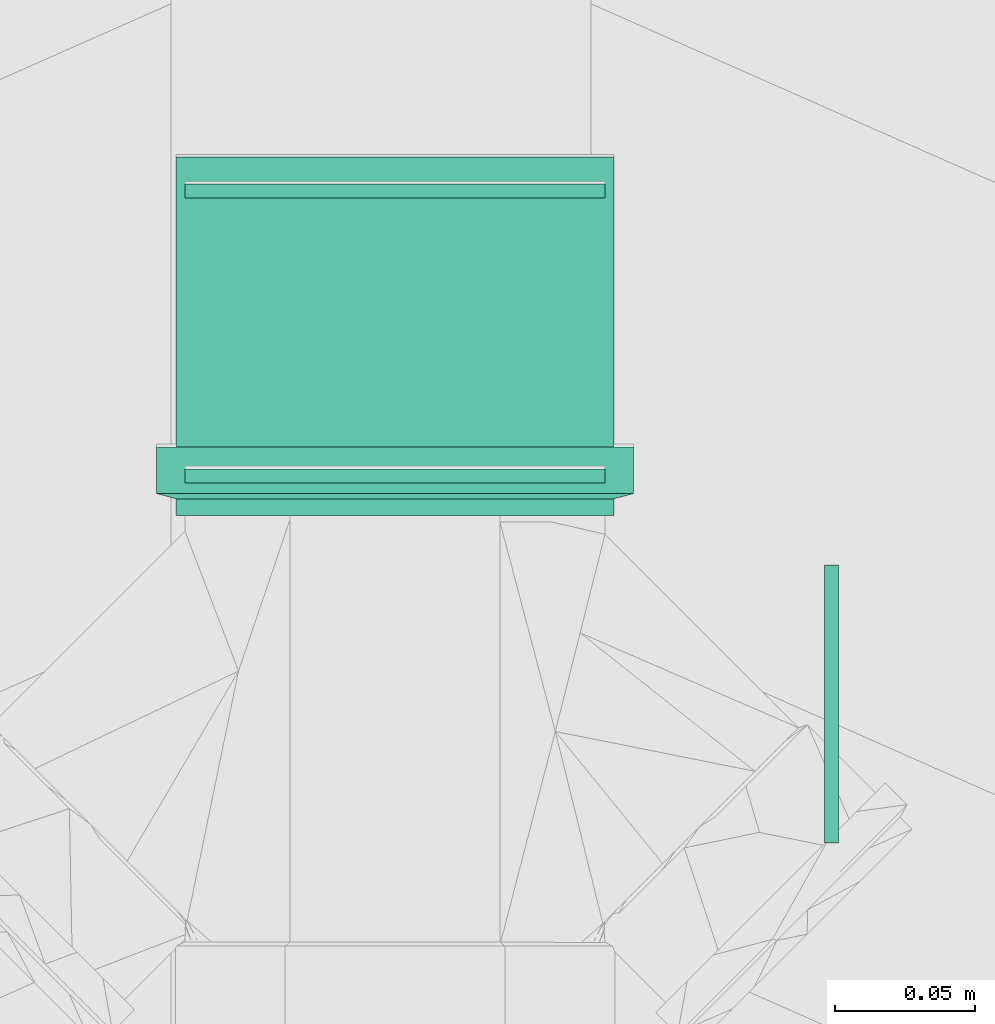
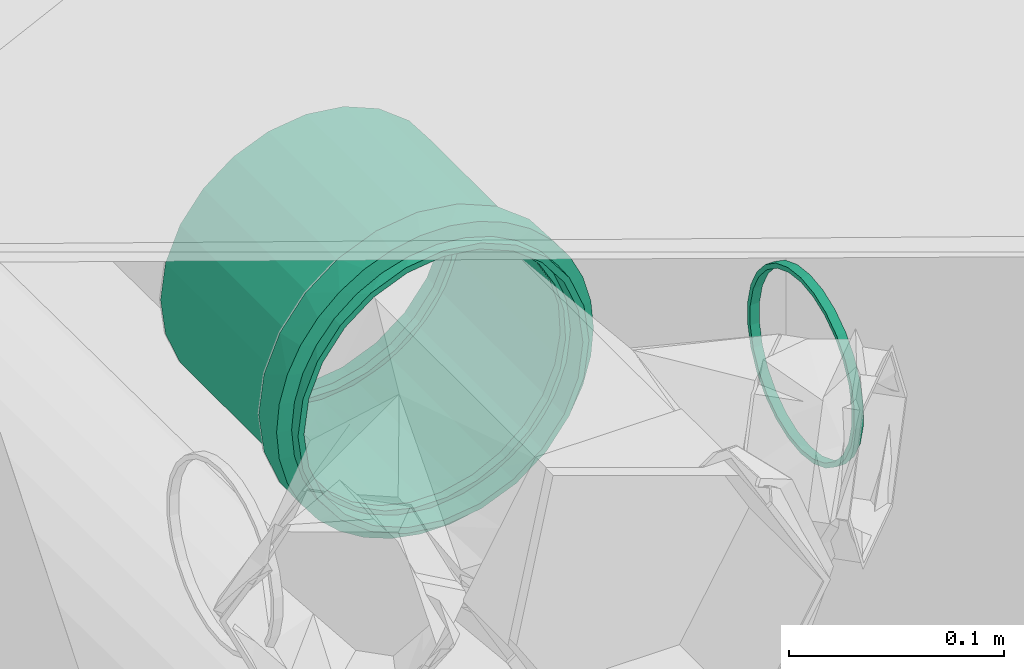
# One storey, part 135 of 166: 4 flow fittings.
"""IFC2X3 building model written with IfcOpenShell, lengths in metres."""

from ifc_helpers import new_model, entity, si_unit, converted_unit, direction, frame, frame_2d, origin, place, context, subcontext, project, spatial, hollow_circle, extrude, faceted_brep, source, transform, mapped, material, type_object, type_shapes, element, save


model = new_model("IFC2X3")

# Units and contexts
model_context = context("Model", 3, precision=1e-05, world=origin(), true_north=direction((6.123233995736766e-17, 1.0)))
body_context = subcontext(model_context, "Body", "Model", "MODEL_VIEW")
ifc_project = project(units=[si_unit("LENGTHUNIT", "METRE"), converted_unit("PLANEANGLEUNIT", "DEGREE", entity("IfcPlaneAngleMeasure", 0.017453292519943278), si_unit("PLANEANGLEUNIT", "RADIAN"), dimensions=[0, 0, 0, 0, 0, 0, 0]), si_unit("AREAUNIT", "SQUARE_METRE")], contexts=[model_context])

# Site, building, storey
site_placement = place(None, origin())
site = spatial("IfcSite", under=ifc_project, at=site_placement, Name="Default", CompositionType="ELEMENT")
building_placement = place(site_placement, origin())
building = spatial("IfcBuilding", under=site, at=building_placement, Name="CASA DE ACOLHIDA PARA IDOSOS", CompositionType="ELEMENT")
storey_placement = place(building_placement, frame((0.0, 0.0, -1.7499999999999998)))
storey = spatial("IfcBuildingStorey", under=building, at=storey_placement, Name="IMPLANTAÇÃO DRENAGEM", CompositionType="ELEMENT", Elevation=-1.7499999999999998)

# Flow fittings
ifc_material_1 = material(Name="PVC Bege Pérola")
pipe_fitting_type_1 = type_object("IfcPipeFittingType", Name="PLUV_Serie Reforcada_Luva Simples:Standard", PredefinedType="NOTDEFINED", material=ifc_material_1)
shared_shape_1 = source(origin(), body_context, "Body", "Brep", [
    faceted_brep([(0.02451000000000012, 0.04262500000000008, -0.07382866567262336), (0.02451000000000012, 0.06028085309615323, -0.06028085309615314), (0.02451000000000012, 0.039124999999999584, -0.06776648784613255), (0.02451000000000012, 0.020252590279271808, -0.0755836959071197), (0.02451000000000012, 0.022064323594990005, -0.08234517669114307), (0.02451000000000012, 0.05533110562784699, -0.055331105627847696), (0.02451000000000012, 0.07382866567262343, -0.04262499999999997), (0.02451000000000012, 0.06776648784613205, -0.03912500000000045), (0.02451000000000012, 0.07558369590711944, -0.02025259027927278), (0.02451000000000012, 0.08234517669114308, -0.022064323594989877), (0.02451000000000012, 0.07825, 0.0), (0.02451000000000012, 0.08525, 0.0), (0.02451000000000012, 0.07558369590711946, 0.020252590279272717), (0.02451000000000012, 0.0823451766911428, 0.022064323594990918), (0.02451000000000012, 0.06776648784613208, 0.039125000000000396), (0.02451000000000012, 0.07382866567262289, 0.04262500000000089), (0.02451000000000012, 0.05533110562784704, 0.055331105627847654), (0.02451000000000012, 0.06028085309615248, 0.0602808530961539), (0.02451000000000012, 0.03912499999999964, 0.06776648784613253), (0.02451000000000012, 0.04262499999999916, 0.07382866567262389), (0.02451000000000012, 0.020252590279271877, 0.07558369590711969), (0.02451000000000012, 0.02206432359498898, 0.08234517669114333), (0.02451000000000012, 0.0, 0.07825), (0.02451000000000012, 0.0, 0.08525), (0.02451000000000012, -0.020252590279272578, 0.0755836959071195), (0.02451000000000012, -0.022064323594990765, 0.08234517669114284), (0.02451000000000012, -0.03912500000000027, 0.06776648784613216), (0.02451000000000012, -0.042625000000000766, 0.07382866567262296), (0.02451000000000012, -0.05533110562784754, 0.055331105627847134), (0.02451000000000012, -0.0602808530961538, 0.06028085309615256), (0.02451000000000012, -0.06776648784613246, 0.03912499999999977), (0.02451000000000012, -0.07382866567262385, 0.042624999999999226), (0.02451000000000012, -0.08234517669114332, 0.02206432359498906), (0.02451000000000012, -0.07558369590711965, 0.020252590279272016), (0.02451000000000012, -0.08525, 0.0), (0.02451000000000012, -0.07825, 0.0), (0.02451000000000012, -0.08234517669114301, -0.022064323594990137), (0.02451000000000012, -0.07558369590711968, -0.020252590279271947), (0.02451000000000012, -0.07382866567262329, -0.04262500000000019), (0.02451000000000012, -0.0677664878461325, -0.03912499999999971), (0.02451000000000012, -0.060280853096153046, -0.060280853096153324), (0.02451000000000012, -0.05533110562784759, -0.055331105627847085), (0.02451000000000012, -0.042624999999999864, -0.0738286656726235), (0.02451000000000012, -0.039125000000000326, -0.06776648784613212), (0.02451000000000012, -0.02206432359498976, -0.08234517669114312), (0.02451000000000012, -0.02025259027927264, -0.07558369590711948), (0.02451000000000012, 0.0, -0.08525), (0.02451000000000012, 0.0, -0.07825), (0.007830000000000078, -0.08379835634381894, 0.01566518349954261), (0.007830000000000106, -0.07949286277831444, 0.03079687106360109), (0.007830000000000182, -0.05137242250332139, 0.06803261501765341), (0.007830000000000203, -0.03799626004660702, 0.07631413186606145), (0.007830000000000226, -0.00786152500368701, 0.08488674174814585), (0.00783000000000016, -0.06299903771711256, 0.057434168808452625), (0.007830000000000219, -0.023326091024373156, 0.08199668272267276), (0.007830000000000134, -0.07248014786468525, 0.044879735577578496), (0.00783000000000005, -0.08525, 0.0), (0.00783000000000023, 0.007870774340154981, 0.08488588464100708), (0.007830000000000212, 0.03800457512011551, 0.07630999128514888), (0.007830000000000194, 0.05137983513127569, 0.06802701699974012), (0.007830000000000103, 0.07949621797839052, 0.030788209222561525), (0.007830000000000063, 0.08380006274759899, 0.015656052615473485), (0.007830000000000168, 0.06300529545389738, 0.05742730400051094), (0.00783000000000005, 0.08525, 0.0), (0.007830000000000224, 0.023335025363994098, 0.08199414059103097), (0.007830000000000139, 0.07248503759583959, 0.04487183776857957), (0.007830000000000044, 0.08380006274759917, -0.015656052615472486), (0.007830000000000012, 0.07949621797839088, -0.03078820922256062), (0.00782999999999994, 0.05137983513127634, -0.06802701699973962), (0.007829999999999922, 0.038004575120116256, -0.07630999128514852), (0.007829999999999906, 0.007870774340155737, -0.084885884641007), (0.00782999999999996, 0.063005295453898, -0.05742730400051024), (0.007829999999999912, 0.023335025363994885, -0.08199414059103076), (0.007829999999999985, 0.07248503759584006, -0.04487183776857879), (0.007829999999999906, -0.007861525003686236, -0.0848867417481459), (0.007829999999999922, -0.037996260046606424, -0.07631413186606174), (0.007829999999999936, -0.05137242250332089, -0.06803261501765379), (0.00783, -0.07949286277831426, -0.030796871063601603), (0.007830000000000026, -0.08379835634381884, -0.015665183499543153), (0.007829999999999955, -0.06299903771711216, -0.057434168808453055), (0.007829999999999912, -0.023326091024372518, -0.08199668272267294), (0.007829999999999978, -0.07248014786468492, -0.044879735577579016), (0.1280100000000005, 0.03912500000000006, -0.06776648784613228), (0.1280100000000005, 0.055331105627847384, -0.05533110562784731), (0.1280100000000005, 0.0374999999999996, -0.06495190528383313), (0.1280100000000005, 0.01941142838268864, -0.07244443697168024), (0.1280100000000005, 0.020252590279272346, -0.07558369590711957), (0.1280100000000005, 0.05303300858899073, -0.053033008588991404), (0.1280100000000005, 0.06776648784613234, -0.039124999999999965), (0.1280100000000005, 0.06495190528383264, -0.03750000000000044), (0.1280100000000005, 0.07244443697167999, -0.01941142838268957), (0.1280100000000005, 0.07558369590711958, -0.020252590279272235), (0.1280100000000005, 0.07500000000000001, 0.0), (0.1280100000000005, 0.07825, 0.0), (0.1280100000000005, 0.07244443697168, 0.019411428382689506), (0.1280100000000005, 0.07558369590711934, 0.020252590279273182), (0.1280100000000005, 0.06495190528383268, 0.03750000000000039), (0.1280100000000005, 0.06776648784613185, 0.03912500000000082), (0.1280100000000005, 0.05303300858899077, 0.05303300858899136), (0.1280100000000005, 0.0553311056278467, 0.055331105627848), (0.1280100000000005, 0.03749999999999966, 0.0649519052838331), (0.1280100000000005, 0.039124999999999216, 0.06776648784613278), (0.1280100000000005, 0.0194114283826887, 0.07244443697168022), (0.1280100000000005, 0.020252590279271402, 0.07558369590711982), (0.1280100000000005, 0.0, 0.07500000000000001), (0.1280100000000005, 0.0, 0.07825), (0.1280100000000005, -0.019411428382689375, 0.07244443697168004), (0.1280100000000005, -0.020252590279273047, 0.07558369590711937), (0.1280100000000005, -0.03750000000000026, 0.06495190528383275), (0.1280100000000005, -0.039125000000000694, 0.06776648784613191), (0.1280100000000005, -0.05303300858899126, 0.05303300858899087), (0.1280100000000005, -0.055331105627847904, 0.05533110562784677), (0.1280100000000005, -0.06495190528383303, 0.037499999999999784), (0.1280100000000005, -0.06776648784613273, 0.039124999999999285), (0.1280100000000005, -0.0755836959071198, 0.02025259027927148), (0.1280100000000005, -0.07244443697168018, 0.019411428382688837), (0.1280100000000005, -0.07825, 0.0), (0.1280100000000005, -0.07500000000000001, 0.0), (0.1280100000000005, -0.07558369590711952, -0.020252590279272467), (0.1280100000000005, -0.0724444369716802, -0.01941142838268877), (0.1280100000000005, -0.06776648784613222, -0.039125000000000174), (0.1280100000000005, -0.06495190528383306, -0.03749999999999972), (0.1280100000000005, -0.05533110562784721, -0.05533110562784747), (0.1280100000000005, -0.053033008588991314, -0.05303300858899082), (0.1280100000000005, -0.03912499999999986, -0.0677664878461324), (0.1280100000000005, -0.03750000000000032, -0.06495190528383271), (0.1280100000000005, -0.02025259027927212, -0.07558369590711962), (0.1280100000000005, -0.019411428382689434, -0.07244443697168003), (0.1280100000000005, 0.0, -0.07825), (0.1280100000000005, 0.0, -0.07500000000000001), (0.0, 0.0374999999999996, -0.06495190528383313), (0.0, 0.055331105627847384, -0.05533110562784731), (0.0, 0.03912500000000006, -0.06776648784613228), (0.0, 0.01941142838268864, -0.07244443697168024), (0.0, 0.05303300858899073, -0.053033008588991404), (0.0, 0.06776648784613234, -0.039124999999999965), (0.0, 0.06495190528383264, -0.03750000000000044), (0.0, 0.07244443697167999, -0.01941142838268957), (0.0, 0.07558369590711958, -0.020252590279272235), (0.0, 0.07500000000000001, 0.0), (0.0, 0.07825, 0.0), (0.0, 0.07244443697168, 0.019411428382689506), (0.0, 0.07558369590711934, 0.020252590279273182), (0.0, 0.06495190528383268, 0.03750000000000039), (0.0, 0.06776648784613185, 0.03912500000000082), (0.0, 0.05303300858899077, 0.05303300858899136), (0.0, 0.0553311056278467, 0.055331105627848), (0.0, 0.03749999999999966, 0.0649519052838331), (0.0, 0.039124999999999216, 0.06776648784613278), (0.0, 0.0194114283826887, 0.07244443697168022), (0.0, 0.020252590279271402, 0.07558369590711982), (0.0, 0.0, 0.07500000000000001), (0.0, 0.0, 0.07825), (0.0, -0.019411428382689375, 0.07244443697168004), (0.0, -0.020252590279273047, 0.07558369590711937), (0.0, -0.03750000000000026, 0.06495190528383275), (0.0, -0.039125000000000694, 0.06776648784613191), (0.0, -0.05303300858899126, 0.05303300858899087), (0.0, -0.055331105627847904, 0.05533110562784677), (0.0, -0.06495190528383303, 0.037499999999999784), (0.0, -0.06776648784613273, 0.039124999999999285), (0.0, -0.0755836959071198, 0.02025259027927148), (0.0, -0.07244443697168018, 0.019411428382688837), (0.0, -0.07825, 0.0), (0.0, -0.07500000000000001, 0.0), (0.0, -0.07558369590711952, -0.020252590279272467), (0.0, -0.0724444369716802, -0.01941142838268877), (0.0, -0.06776648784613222, -0.039125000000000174), (0.0, -0.06495190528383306, -0.03749999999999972), (0.0, -0.05533110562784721, -0.05533110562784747), (0.0, -0.053033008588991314, -0.05303300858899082), (0.0, -0.03912499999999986, -0.0677664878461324), (0.0, -0.03750000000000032, -0.06495190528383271), (0.0, -0.02025259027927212, -0.07558369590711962), (0.0, -0.019411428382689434, -0.07244443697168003), (0.0, 0.0, -0.07825), (0.0, 0.0, -0.07500000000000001), (0.0, 0.020252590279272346, -0.07558369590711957), (0.005950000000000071, -0.07674636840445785, 0.015266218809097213), (0.0059500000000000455, -0.07825, 0.0), (0.005950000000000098, -0.0722932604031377, 0.02994573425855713), (0.005950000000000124, -0.06506181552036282, 0.043474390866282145), (0.005950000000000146, -0.05532994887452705, 0.05533226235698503), (0.005950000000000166, -0.04347167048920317, 0.06506363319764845), (0.005950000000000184, -0.029942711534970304, 0.07229451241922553), (0.005950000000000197, -0.015263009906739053, 0.07674700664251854), (0.005950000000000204, 3.271758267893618e-06, 0.07824999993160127), (0.005950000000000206, 0.015269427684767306, 0.07674573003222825), (0.005950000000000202, 0.029948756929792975, 0.07229200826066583), (0.00595000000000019, 0.04347711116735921, 0.0650599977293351), (0.005950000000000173, 0.055334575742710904, 0.05532763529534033), (0.0059500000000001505, 0.06506545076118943, 0.043468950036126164), (0.005950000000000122, 0.07229576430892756, 0.02993968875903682), (0.005950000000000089, 0.07674764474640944, 0.015259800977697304), (0.0059500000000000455, 0.07825, 0.0), (0.0059499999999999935, 0.07674764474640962, -0.015259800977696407), (0.005949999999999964, 0.0722957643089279, -0.02993968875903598), (0.005949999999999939, 0.06506545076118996, -0.04346895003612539), (0.005949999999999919, 0.05533457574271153, -0.05532763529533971), (0.005949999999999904, 0.04347711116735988, -0.06505999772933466), (0.005949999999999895, 0.029948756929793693, -0.07229200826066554), (0.00594999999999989, 0.015269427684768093, -0.0767457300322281), (0.005949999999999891, 3.2717582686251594e-06, -0.07824999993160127), (0.00594999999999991, -0.029942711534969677, -0.0722945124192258), (0.005949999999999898, -0.015263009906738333, -0.07674700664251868), (0.005949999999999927, -0.04347167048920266, -0.0650636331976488), (0.005949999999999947, -0.055329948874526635, -0.055332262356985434), (0.00594999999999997, -0.06506181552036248, -0.043474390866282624), (0.005949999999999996, -0.0722932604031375, -0.02994573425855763), (0.00595000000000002, -0.07674636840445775, -0.015266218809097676), (0.06700000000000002, -0.07500000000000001, 0.0), (0.067, 0.07500000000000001, 0.0)], [[[0, 1, 2]], [[0, 2, 3]], [[3, 4, 0]], [[2, 1, 5]], [[6, 5, 1]], [[5, 6, 7]], [[7, 6, 8]], [[9, 8, 6]], [[9, 10, 8]], [[10, 9, 11]], [[12, 10, 11]], [[11, 13, 12]], [[12, 13, 14]], [[15, 14, 13]], [[14, 15, 16]], [[16, 15, 17]], [[18, 16, 17]], [[17, 19, 18]], [[18, 19, 20]], [[21, 20, 19]], [[20, 21, 22]], [[22, 21, 23]], [[22, 23, 24]], [[24, 23, 25]], [[24, 25, 26]], [[27, 26, 25]], [[27, 28, 26]], [[28, 27, 29]], [[29, 30, 28]], [[31, 30, 29]], [[30, 31, 32]], [[32, 33, 30]], [[34, 33, 32]], [[34, 35, 33]], [[36, 35, 34]], [[36, 37, 35]], [[37, 36, 38]], [[38, 39, 37]], [[39, 38, 40]], [[39, 40, 41]], [[40, 42, 41]], [[41, 42, 43]], [[43, 42, 44]], [[44, 45, 43]], [[46, 45, 44]], [[4, 47, 46]], [[46, 47, 45]], [[4, 3, 47]], [[32, 48, 34]], [[31, 49, 32]], [[50, 29, 27]], [[27, 25, 51]], [[52, 25, 23]], [[31, 29, 53]], [[52, 54, 25]], [[55, 49, 31]], [[49, 48, 32]], [[48, 56, 34]], [[51, 50, 27]], [[53, 29, 50]], [[53, 55, 31]], [[51, 25, 54]], [[21, 57, 23]], [[58, 21, 19]], [[19, 17, 59]], [[60, 15, 13]], [[13, 11, 61]], [[17, 15, 62]], [[11, 63, 61]], [[59, 58, 19]], [[58, 64, 21]], [[64, 57, 21]], [[60, 65, 15]], [[62, 15, 65]], [[62, 59, 17]], [[60, 13, 61]], [[23, 57, 52]], [[9, 66, 11]], [[6, 67, 9]], [[68, 1, 0]], [[0, 4, 69]], [[70, 4, 46]], [[6, 1, 71]], [[70, 72, 4]], [[73, 67, 6]], [[67, 66, 9]], [[66, 63, 11]], [[69, 68, 0]], [[71, 1, 68]], [[71, 73, 6]], [[69, 4, 72]], [[44, 74, 46]], [[75, 44, 42]], [[42, 40, 76]], [[38, 36, 77]], [[78, 36, 34]], [[34, 56, 78]], [[40, 38, 79]], [[78, 77, 36]], [[76, 75, 42]], [[75, 80, 44]], [[80, 74, 44]], [[79, 38, 81]], [[79, 76, 40]], [[77, 81, 38]], [[46, 74, 70]], [[82, 83, 84]], [[82, 84, 85]], [[85, 86, 82]], [[84, 83, 87]], [[88, 87, 83]], [[87, 88, 89]], [[89, 88, 90]], [[91, 90, 88]], [[91, 92, 90]], [[92, 91, 93]], [[94, 92, 93]], [[93, 95, 94]], [[94, 95, 96]], [[97, 96, 95]], [[96, 97, 98]], [[98, 97, 99]], [[100, 98, 99]], [[99, 101, 100]], [[100, 101, 102]], [[103, 102, 101]], [[102, 103, 104]], [[104, 103, 105]], [[104, 105, 106]], [[106, 105, 107]], [[106, 107, 108]], [[109, 108, 107]], [[110, 108, 109]], [[110, 109, 111]], [[111, 112, 110]], [[113, 112, 111]], [[112, 113, 114]], [[114, 115, 112]], [[116, 115, 114]], [[116, 117, 115]], [[118, 117, 116]], [[118, 119, 117]], [[119, 118, 120]], [[120, 121, 119]], [[121, 120, 122]], [[121, 122, 123]], [[122, 124, 123]], [[125, 123, 124]], [[125, 124, 126]], [[126, 127, 125]], [[128, 127, 126]], [[86, 129, 128]], [[128, 129, 127]], [[86, 85, 129]], [[130, 131, 132]], [[133, 130, 132]], [[134, 131, 130]], [[131, 134, 135]], [[136, 135, 134]], [[137, 135, 136]], [[135, 137, 138]], [[137, 139, 138]], [[140, 138, 139]], [[140, 139, 141]], [[141, 142, 140]], [[143, 142, 141]], [[142, 143, 144]], [[145, 144, 143]], [[146, 144, 145]], [[146, 145, 147]], [[147, 148, 146]], [[149, 148, 147]], [[148, 149, 150]], [[151, 150, 149]], [[152, 150, 151]], [[153, 152, 151]], [[154, 152, 153]], [[155, 154, 153]], [[154, 155, 156]], [[156, 155, 157]], [[158, 156, 157]], [[157, 159, 158]], [[158, 159, 160]], [[161, 160, 159]], [[159, 162, 161]], [[161, 162, 163]], [[162, 164, 163]], [[163, 164, 165]], [[164, 166, 165]], [[167, 165, 166]], [[166, 168, 167]], [[169, 167, 168]], [[170, 169, 168]], [[170, 171, 169]], [[171, 170, 172]], [[173, 171, 172]], [[172, 174, 173]], [[173, 174, 175]], [[174, 176, 175]], [[176, 133, 177]], [[175, 176, 177]], [[132, 177, 133]], [[178, 163, 179]], [[180, 161, 178]], [[158, 181, 182]], [[182, 183, 158]], [[180, 181, 160]], [[184, 156, 183]], [[158, 160, 181]], [[160, 161, 180]], [[161, 163, 178]], [[185, 152, 154]], [[152, 185, 186]], [[156, 184, 154]], [[156, 158, 183]], [[185, 154, 184]], [[150, 152, 187]], [[188, 150, 187]], [[146, 189, 190]], [[190, 191, 146]], [[188, 189, 148]], [[192, 144, 191]], [[144, 146, 191]], [[146, 148, 189]], [[148, 150, 188]], [[193, 194, 140]], [[140, 142, 193]], [[142, 144, 192]], [[192, 193, 142]], [[187, 152, 186]], [[195, 140, 194]], [[196, 138, 195]], [[131, 197, 198]], [[198, 199, 131]], [[196, 197, 135]], [[200, 132, 199]], [[131, 135, 197]], [[135, 138, 196]], [[138, 140, 195]], [[177, 201, 175]], [[132, 200, 177]], [[201, 202, 175]], [[132, 131, 199]], [[201, 177, 200]], [[203, 173, 204]], [[205, 171, 203]], [[169, 206, 207]], [[167, 207, 208]], [[205, 206, 169]], [[165, 208, 209]], [[169, 171, 205]], [[171, 173, 203]], [[173, 175, 204]], [[163, 165, 209]], [[167, 208, 165]], [[167, 169, 207]], [[163, 209, 179]], [[204, 175, 202]], [[81, 208, 207]], [[179, 209, 78]], [[209, 208, 77]], [[205, 203, 75]], [[76, 206, 205]], [[206, 79, 207]], [[204, 80, 203]], [[78, 209, 77]], [[56, 179, 78]], [[77, 208, 81]], [[74, 80, 204]], [[76, 79, 206]], [[75, 76, 205]], [[80, 75, 203]], [[81, 207, 79]], [[204, 202, 74]], [[72, 201, 200]], [[201, 70, 202]], [[199, 69, 200]], [[196, 195, 67]], [[73, 197, 196]], [[198, 197, 71]], [[198, 68, 199]], [[66, 195, 194]], [[68, 69, 199]], [[72, 70, 201]], [[69, 72, 200]], [[63, 66, 194]], [[73, 71, 197]], [[67, 73, 196]], [[66, 67, 195]], [[68, 198, 71]], [[202, 70, 74]], [[65, 192, 191]], [[194, 193, 61]], [[193, 192, 60]], [[189, 188, 58]], [[59, 190, 189]], [[190, 62, 191]], [[187, 64, 188]], [[61, 193, 60]], [[63, 194, 61]], [[60, 192, 65]], [[57, 64, 187]], [[59, 62, 190]], [[58, 59, 189]], [[64, 58, 188]], [[65, 191, 62]], [[187, 186, 57]], [[54, 185, 184]], [[185, 52, 186]], [[183, 51, 184]], [[180, 178, 49]], [[55, 181, 180]], [[182, 181, 53]], [[182, 50, 183]], [[48, 178, 179]], [[50, 51, 183]], [[54, 52, 185]], [[51, 54, 184]], [[56, 48, 179]], [[55, 53, 181]], [[49, 55, 180]], [[48, 49, 178]], [[50, 182, 53]], [[186, 52, 57]], [[33, 35, 116, 114]], [[113, 30, 33, 114]], [[26, 28, 111, 109]], [[113, 111, 28, 30]], [[24, 26, 109, 107]], [[107, 105, 22, 24]], [[18, 20, 103, 101]], [[99, 16, 18, 101]], [[12, 14, 97, 95]], [[99, 97, 14, 16]], [[10, 12, 95, 93]], [[103, 20, 22, 105]], [[10, 93, 91, 8]], [[88, 7, 8, 91]], [[82, 86, 3, 2]], [[83, 82, 2, 5]], [[7, 88, 83, 5]], [[86, 128, 47, 3]], [[43, 45, 126, 124]], [[122, 41, 43, 124]], [[37, 39, 120, 118]], [[122, 120, 39, 41]], [[35, 37, 118, 116]], [[126, 45, 47, 128]], [[115, 117, 210, 164, 162]], [[155, 108, 110, 157]], [[110, 112, 159, 157]], [[112, 115, 162, 159]], [[106, 108, 155, 153]], [[153, 151, 104, 106]], [[102, 104, 151, 149]], [[102, 149, 147, 100]], [[141, 94, 96, 143]], [[96, 98, 145, 143]], [[98, 100, 147, 145]], [[92, 94, 141, 139, 211]], [[211, 139, 137, 90, 92]], [[130, 84, 87, 134]], [[89, 90, 137, 136]], [[89, 136, 134, 87]], [[85, 84, 130, 133]], [[133, 176, 129, 85]], [[127, 129, 176, 174]], [[127, 174, 172, 125]], [[166, 119, 121, 168]], [[121, 123, 170, 168]], [[123, 125, 172, 170]], [[117, 119, 166, 164, 210]]]),
])
type_shapes(pipe_fitting_type_1, [shared_shape_1])
flow_fitting_1_placement = place(storey_placement, frame((-21.976366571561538, 53.91234207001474, -1.0999999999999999), z_axis=(0.0, 0.0, -1.0), x_axis=(0.0, 1.0, 0.0)))
element("IfcFlowFitting", 1, at=flow_fitting_1_placement, inside=storey, type_object=pipe_fitting_type_1, material=ifc_material_1, Name="PLUV_Serie Reforcada_Luva Simples:Standard", ObjectType="PLUV_Serie Reforcada_Luva Simples:Standard", context=body_context, shape_type="MappedRepresentation", body=[
    mapped(shared_shape_1, transform((0.0, 0.0, 0.0), scale=1.0)),
])
ifc_material_2 = material(Name="Borracha")
pipe_fitting_type_2 = type_object("IfcPipeFittingType", Name="AN_PLUV_Anel de vedação para Conexão Série R:AN_PLUV_Anel de vedação para Conexão Série R", PredefinedType="NOTDEFINED", material=ifc_material_2)
shared_shape_2 = source(origin(), body_context, "Body", "SweptSolid", [
    extrude(hollow_circle(Radius=0.05, WallThickness=0.0024999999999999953, at=frame_2d((2.979563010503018e-18, -8.077722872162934e-17), x_axis=(1.0, 0.0))), frame((0.0, 0.0, -0.004999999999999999)), (0.0, 0.0, 1.0), 0.004999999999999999),
])
type_shapes(pipe_fitting_type_2, [shared_shape_2])
flow_fitting_2_placement = place(storey_placement, frame((-21.82302048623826, 53.84502598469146, -1.0999999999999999), z_axis=(-1.0, 0.0, 0.0), x_axis=(0.0, 0.0, 1.0)))
element("IfcFlowFitting", 2, at=flow_fitting_2_placement, inside=storey, type_object=pipe_fitting_type_2, material=ifc_material_2, Name="AN_PLUV_Anel de vedação para Conexão Série R:AN_PLUV_Anel de vedação para Conexão Série R", ObjectType="AN_PLUV_Anel de vedação para Conexão Série R:AN_PLUV_Anel de vedação para Conexão Série R", context=body_context, shape_type="MappedRepresentation", body=[
    mapped(shared_shape_2, transform((0.0, 0.0, 0.0), scale=1.0)),
])
pipe_fitting_type_3 = type_object("IfcPipeFittingType", Name="AN_PLUV_Anel de vedação para Conexão Série R:AN_PLUV_Anel de vedação para Conexão Série R", PredefinedType="NOTDEFINED", material=ifc_material_2)
shared_shape_3 = source(origin(), body_context, "Body", "SweptSolid", [
    extrude(hollow_circle(Radius=0.07500000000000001, WallThickness=0.0025000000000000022, at=frame_2d((2.979563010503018e-18, -1.21165843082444e-16), x_axis=(1.0, 0.0))), frame((0.0, 0.0, -0.004999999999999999)), (0.0, 0.0, 1.0), 0.004999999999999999),
])
type_shapes(pipe_fitting_type_3, [shared_shape_3])
for number, where, z_axis, x_axis in (
    (3, (-21.976366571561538, 54.02569207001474, -1.0999999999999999), (0.0, -1.0, 0.0), (0.0, 0.0, 1.0)),
    (4, (-21.976366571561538, 53.928942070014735, -1.0999999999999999), (0.0, 1.0, 0.0), (0.0, 0.0, 1.0)),
):
    element("IfcFlowFitting", number, at=place(storey_placement, frame(where, z_axis=z_axis, x_axis=x_axis)), inside=storey, type_object=pipe_fitting_type_3, material=ifc_material_2, Name="AN_PLUV_Anel de vedação para Conexão Série R:AN_PLUV_Anel de vedação para Conexão Série R", ObjectType="AN_PLUV_Anel de vedação para Conexão Série R:AN_PLUV_Anel de vedação para Conexão Série R", context=body_context, shape_type="MappedRepresentation", body=[
        mapped(shared_shape_3, transform((0.0, 0.0, 0.0), scale=1.0)),
    ])

save(model, "model.ifc")
